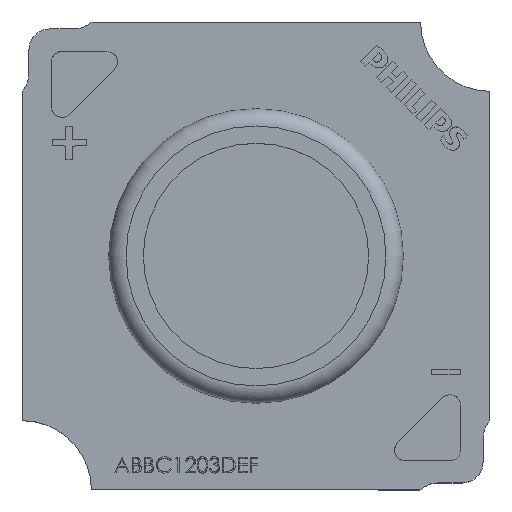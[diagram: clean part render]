
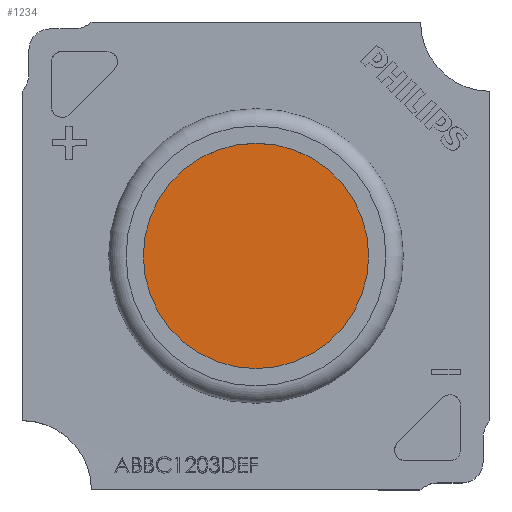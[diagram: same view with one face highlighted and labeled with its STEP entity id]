
A CAD part, top view. The second image highlights one B-rep face of the part: STEP entity #1234.
In plain terms, the highlighted planar face has unit normal (0, 0, 1).
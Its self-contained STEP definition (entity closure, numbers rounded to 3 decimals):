
#754=FACE_OUTER_BOUND('',#2441,.T.);
#1234=ADVANCED_FACE('',(#754),#1638,.T.);
#1638=PLANE('',#10170);
#1661=CIRCLE('',#10169,3.25);
#2441=EDGE_LOOP('',(#5107));
#5107=ORIENTED_EDGE('',*,*,#7334,.T.);
#6001=VERTEX_POINT('',#19954);
#7334=EDGE_CURVE('',#6001,#6001,#1661,.T.);
#10169=AXIS2_PLACEMENT_3D('',#19953,#12272,#12273);
#10170=AXIS2_PLACEMENT_3D('',#19955,#12274,#12275);
#12272=DIRECTION('',(0.,0.,1.));
#12273=DIRECTION('',(1.,0.,0.));
#12274=DIRECTION('',(0.,0.,1.));
#12275=DIRECTION('',(-1.,0.,0.));
#19953=CARTESIAN_POINT('',(6.75,6.75,1.49));
#19954=CARTESIAN_POINT('',(10.,6.75,1.49));
#19955=CARTESIAN_POINT('',(6.75,6.75,1.49));
